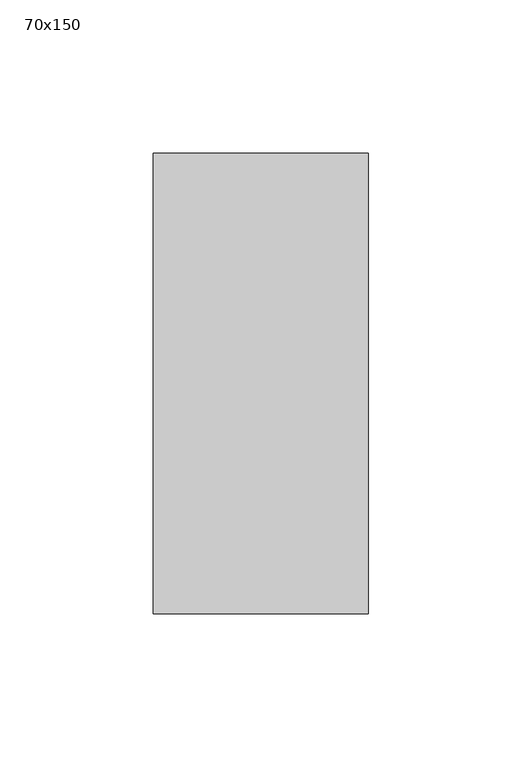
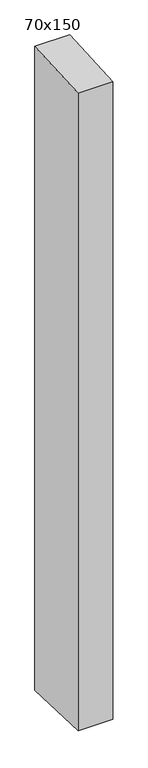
"""IFC4 building model written with IfcOpenShell, lengths in millimetres: member geometry, 長方形のマリオン : 70x150."""

from ifc_helpers import new_model, si_unit, frame, origin, place, context, project, spatial, polyline, outline, extrude, source, transform, mapped, element, save


def member_70x150_66c9c7cc(model_context):
    return source(origin(), model_context, "Body", "SweptSolid", [
        extrude(outline(polyline([(-75.0, -4.0221102), (75.0, 4.0221102), (75.0, -1360.8222917), (-75.0, -1355.5098618), (-75.0, -4.0221102)])), frame((-70.0, 0.0, 0.0), z_axis=(1.0, 0.0, 0.0), x_axis=(0.0, 1.0, 0.0)), (0.0, 0.0, 1.0), 70.0),
    ])


if __name__ == "__main__":
    model = new_model("IFC4")
    model_context = context("Model", 3, world=origin())
    ifc_project = project(units=[si_unit("LENGTHUNIT", "METRE", prefix="MILLI")], contexts=[model_context])
    site = spatial("IfcSite", under=ifc_project)
    building = spatial("IfcBuilding", under=site)
    placement = place(None, origin())
    member_70x150_shape = member_70x150_66c9c7cc(model_context)
    element("IfcMember", 1, ObjectType="長方形のマリオン : 70x150", at=placement, inside=building, context=model_context, shape_type="MappedRepresentation", body=[
        mapped(member_70x150_shape, transform((0.0, 0.0, 0.0), x_axis=(1.0, 0.0, 0.0), y_axis=(0.0, 1.0, 0.0), z_axis=(0.0, 0.0, 1.0))),
    ])
    save(model, "model.ifc")
